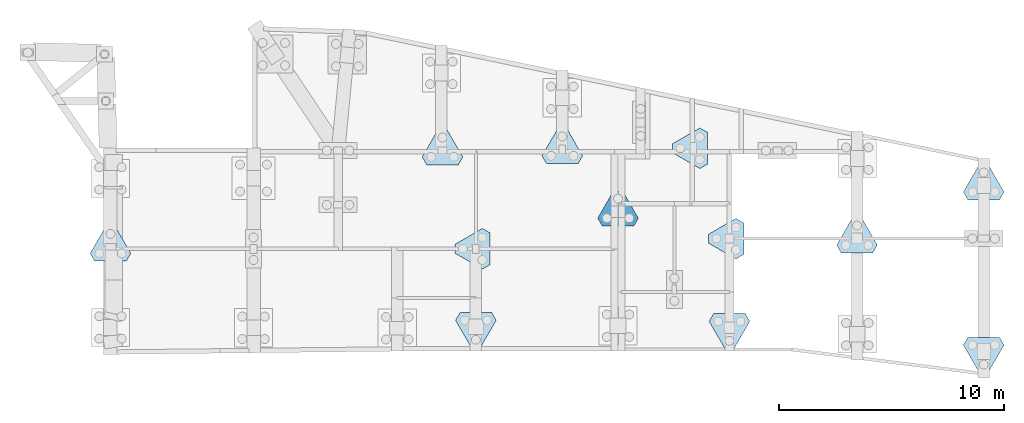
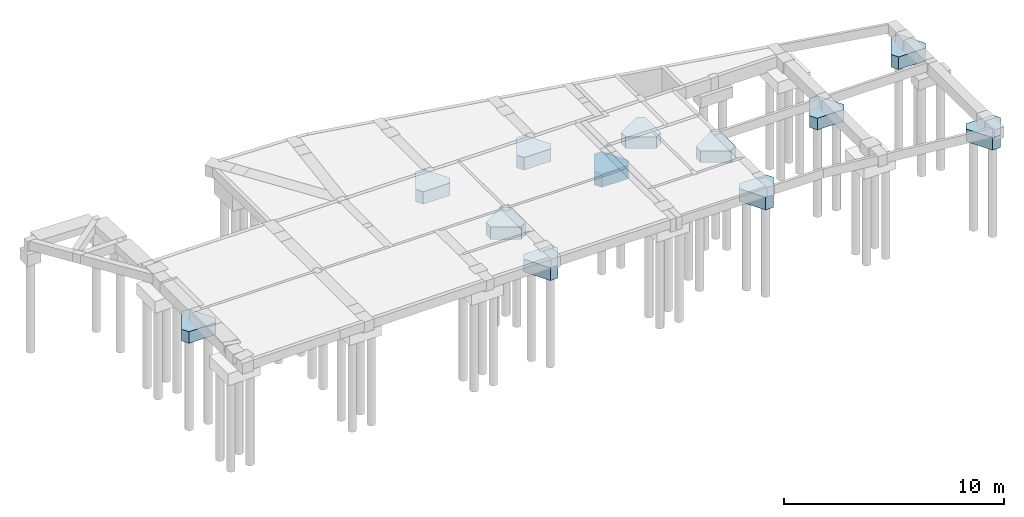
# One storey, part 5 of 5: 12 footings.
"""IFC4 building model written with IfcOpenShell, lengths in centimetres."""

from ifc_helpers import new_model, si_unit, derived_unit, frame, origin, origin_with_axes, place, context, project, spatial, faceted_brep, material, element, save


model = new_model("IFC4")

# Units and contexts
model_context = context("Model", 3, precision=1e-05, world=origin_with_axes(), identifier="Body")
ifc_project = project(units=[si_unit("LENGTHUNIT", "METRE", prefix="CENTI"), si_unit("VOLUMEUNIT", "CUBIC_METRE"), si_unit("AREAUNIT", "SQUARE_METRE"), si_unit("POWERUNIT", "WATT"), si_unit("LUMINOUSFLUXUNIT", "LUMEN"), si_unit("ELECTRICCURRENTUNIT", "AMPERE"), si_unit("PRESSUREUNIT", "PASCAL", prefix="KILO"), si_unit("MASSUNIT", "GRAM", prefix="KILO"), si_unit("PLANEANGLEUNIT", "RADIAN"), derived_unit("VOLUMETRICFLOWRATEUNIT", [(si_unit("LENGTHUNIT", "METRE"), 3), (si_unit("TIMEUNIT", "SECOND"), -1)])], contexts=[model_context])

# Site, building, storey
site_placement = place(None, origin_with_axes())
site = spatial("IfcSite", under=ifc_project, at=site_placement)
building_placement = place(site_placement, origin())
building = spatial("IfcBuilding", under=site, at=building_placement)
storey_placement = place(building_placement, origin_with_axes())
storey = spatial("IfcBuildingStorey", under=building, at=storey_placement, Name="PÁTIO", CompositionType="ELEMENT", Elevation=0.0)

# Footings
ifc_material = material(Name="Concreto")
footing_1_placement = place(storey_placement, frame((2019.6, -1250.1137567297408, -60.0), z_axis=(0.0, 0.0, 1.0), x_axis=(1.0, 0.0, 0.0)))
element("IfcFooting", 1, at=footing_1_placement, inside=storey, material=ifc_material, Name="P.A13", context=model_context, shape_type="SolidModel", body=[
    faceted_brep([(-20.207259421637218, -78.3012701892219, -70.0), (-90.41451884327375, 43.30127018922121, -70.0), (-70.20725942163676, 78.3012701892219, -70.0), (70.20725942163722, 78.3012701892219, -70.0), (90.41451884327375, 43.30127018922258, -70.0), (20.207259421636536, -78.3012701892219, -70.0), (20.207259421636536, -78.3012701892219, 0.0), (90.41451884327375, 43.30127018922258, 0.0), (70.20725942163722, 78.3012701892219, 0.0), (-70.20725942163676, 78.3012701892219, 0.0), (-90.41451884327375, 43.30127018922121, 0.0), (-20.207259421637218, -78.3012701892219, 0.0)], [[[0, 1, 2, 3, 4, 5]], [[6, 7, 8, 9, 10, 11]], [[6, 5, 7]], [[5, 4, 7]], [[7, 4, 8]], [[4, 3, 8]], [[8, 3, 9]], [[3, 2, 9]], [[9, 2, 10]], [[2, 1, 10]], [[10, 1, 11]], [[1, 0, 11]], [[11, 0, 6]], [[0, 5, 6]]]),
])
footing_2_placement = place(storey_placement, frame((3148.6, -1254.8037567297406, -60.0), z_axis=(0.0, 0.0, 1.0), x_axis=(1.0, 0.0, 0.0)))
element("IfcFooting", 2, at=footing_2_placement, inside=storey, material=ifc_material, Name="P.A15", context=model_context, shape_type="SolidModel", body=[
    faceted_brep([(-20.207259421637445, -78.3012701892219, -70.0), (-90.41451884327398, 43.30127018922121, -70.0), (-70.20725942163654, 78.3012701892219, -70.0), (70.20725942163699, 78.3012701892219, -70.0), (90.41451884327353, 43.30127018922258, -70.0), (20.207259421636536, -78.3012701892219, -70.0), (20.207259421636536, -78.3012701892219, 0.0), (90.41451884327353, 43.30127018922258, 0.0), (70.20725942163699, 78.3012701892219, 0.0), (-70.20725942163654, 78.3012701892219, 0.0), (-90.41451884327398, 43.30127018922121, 0.0), (-20.207259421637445, -78.3012701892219, 0.0)], [[[0, 1, 2, 3, 4, 5]], [[6, 7, 8, 9, 10, 11]], [[6, 5, 7]], [[5, 4, 7]], [[7, 4, 8]], [[4, 3, 8]], [[8, 3, 9]], [[3, 2, 9]], [[9, 2, 10]], [[2, 1, 10]], [[10, 1, 11]], [[1, 0, 11]], [[11, 0, 6]], [[0, 5, 6]]]),
])
footing_3_placement = place(storey_placement, frame((4280.6, -1360.6537567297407, -60.0), z_axis=(0.0, 0.0, 1.0), x_axis=(1.0, 0.0, 0.0)))
element("IfcFooting", 3, at=footing_3_placement, inside=storey, material=ifc_material, Name="P.A17", context=model_context, shape_type="SolidModel", body=[
    faceted_brep([(-20.20725942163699, -78.3012701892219, -70.0), (-90.41451884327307, 43.30127018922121, -70.0), (-70.20725942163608, 78.3012701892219, -70.0), (70.2072594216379, 78.3012701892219, -70.0), (90.41451884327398, 43.30127018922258, -70.0), (20.20725942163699, -78.3012701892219, -70.0), (20.20725942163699, -78.3012701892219, 0.0), (90.41451884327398, 43.30127018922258, 0.0), (70.2072594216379, 78.3012701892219, 0.0), (-70.20725942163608, 78.3012701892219, 0.0), (-90.41451884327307, 43.30127018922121, 0.0), (-20.20725942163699, -78.3012701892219, 0.0)], [[[0, 1, 2, 3, 4, 5]], [[6, 7, 8, 9, 10, 11]], [[6, 5, 7]], [[5, 4, 7]], [[7, 4, 8]], [[4, 3, 8]], [[8, 3, 9]], [[3, 2, 9]], [[9, 2, 10]], [[2, 1, 10]], [[10, 1, 11]], [[1, 0, 11]], [[11, 0, 6]], [[0, 5, 6]]]),
])
footing_4_placement = place(storey_placement, frame((4280.6, -592.1462432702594, -60.0), z_axis=(0.0, 0.0, 1.0), x_axis=(1.0, 0.0, 0.0)))
element("IfcFooting", 4, at=footing_4_placement, inside=storey, material=ifc_material, Name="P.A9", context=model_context, shape_type="SolidModel", body=[
    faceted_brep([(20.20725942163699, 78.30127018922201, -70.0), (90.41451884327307, -43.30127018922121, -70.0), (70.20725942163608, -78.3012701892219, -70.0), (-70.2072594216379, -78.3012701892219, -70.0), (-90.41451884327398, -43.30127018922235, -70.0), (-20.20725942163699, 78.30127018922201, -70.0), (-20.20725942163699, 78.30127018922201, 0.0), (-90.41451884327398, -43.30127018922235, 0.0), (-70.2072594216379, -78.3012701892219, 0.0), (70.20725942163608, -78.3012701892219, 0.0), (90.41451884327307, -43.30127018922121, 0.0), (20.20725942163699, 78.30127018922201, 0.0)], [[[0, 1, 2, 3, 4, 5]], [[6, 7, 8, 9, 10, 11]], [[6, 5, 7]], [[5, 4, 7]], [[7, 4, 8]], [[4, 3, 8]], [[8, 3, 9]], [[3, 2, 9]], [[9, 2, 10]], [[2, 1, 10]], [[10, 1, 11]], [[1, 0, 11]], [[11, 0, 6]], [[0, 5, 6]]]),
])
footing_5_placement = place(storey_placement, frame((1871.0, -436.4662432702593, -60.0), z_axis=(0.0, 0.0, 1.0), x_axis=(1.0, 0.0, 0.0)))
element("IfcFooting", 5, at=footing_5_placement, inside=storey, material=ifc_material, Name="P11", context=model_context, shape_type="SolidModel", body=[
    faceted_brep([(20.207259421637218, 78.30127018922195, -70.0), (90.41451884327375, -43.30127018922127, -70.0), (70.20725942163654, -78.30127018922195, -70.0), (-70.20725942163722, -78.30127018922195, -70.0), (-90.41451884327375, -43.301270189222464, -70.0), (-20.207259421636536, 78.30127018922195, -70.0), (-20.207259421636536, 78.30127018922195, 0.0), (-90.41451884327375, -43.301270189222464, 0.0), (-70.20725942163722, -78.30127018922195, 0.0), (70.20725942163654, -78.30127018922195, 0.0), (90.41451884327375, -43.30127018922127, 0.0), (20.207259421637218, 78.30127018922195, 0.0)], [[[0, 1, 2, 3, 4, 5]], [[6, 7, 8, 9, 10, 11]], [[6, 5, 7]], [[5, 4, 7]], [[7, 4, 8]], [[4, 3, 8]], [[8, 3, 9]], [[3, 2, 9]], [[9, 2, 10]], [[2, 1, 10]], [[10, 1, 11]], [[1, 0, 11]], [[11, 0, 6]], [[0, 5, 6]]]),
])
footing_6_placement = place(storey_placement, frame((2404.5, -431.4662432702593, -60.0), z_axis=(0.0, 0.0, 1.0), x_axis=(1.0, 0.0, 0.0)))
element("IfcFooting", 6, at=footing_6_placement, inside=storey, material=ifc_material, Name="P12", context=model_context, shape_type="SolidModel", body=[
    faceted_brep([(20.20725942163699, 78.30127018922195, -70.0), (90.41451884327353, -43.30127018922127, -70.0), (70.20725942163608, -78.30127018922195, -70.0), (-70.20725942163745, -78.30127018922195, -70.0), (-90.41451884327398, -43.301270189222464, -70.0), (-20.20725942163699, 78.30127018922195, -70.0), (-20.20725942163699, 78.30127018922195, 0.0), (-90.41451884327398, -43.301270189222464, 0.0), (-70.20725942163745, -78.30127018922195, 0.0), (70.20725942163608, -78.30127018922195, 0.0), (90.41451884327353, -43.30127018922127, 0.0), (20.20725942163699, 78.30127018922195, 0.0)], [[[0, 1, 2, 3, 4, 5]], [[6, 7, 8, 9, 10, 11]], [[6, 5, 7]], [[5, 4, 7]], [[7, 4, 8]], [[4, 3, 8]], [[8, 3, 9]], [[3, 2, 9]], [[9, 2, 10]], [[2, 1, 10]], [[10, 1, 11]], [[1, 0, 11]], [[11, 0, 6]], [[0, 5, 6]]]),
])
footing_7_placement = place(storey_placement, frame((2973.5662432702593, -440.9, -170.0), z_axis=(0.0, 0.0, 1.0), x_axis=(1.0, 0.0, 0.0)))
element("IfcFooting", 7, at=footing_7_placement, inside=storey, material=ifc_material, Name="P14", context=model_context, shape_type="SolidModel", body=[
    faceted_brep([(-78.30127018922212, 20.207259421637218, -65.0), (43.30127018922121, 90.41451884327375, -65.0), (78.30127018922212, 70.20725942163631, -65.0), (78.30127018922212, -70.20725942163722, -65.0), (43.30127018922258, -90.41451884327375, -65.0), (-78.30127018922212, -20.207259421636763, -65.0), (-78.30127018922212, -20.207259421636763, 0.0), (43.30127018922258, -90.41451884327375, 0.0), (78.30127018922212, -70.20725942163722, 0.0), (78.30127018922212, 70.20725942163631, 0.0), (43.30127018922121, 90.41451884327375, 0.0), (-78.30127018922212, 20.207259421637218, 0.0)], [[[0, 1, 2, 3, 4, 5]], [[6, 7, 8, 9, 10, 11]], [[6, 5, 7]], [[5, 4, 7]], [[7, 4, 8]], [[4, 3, 8]], [[8, 3, 9]], [[3, 2, 9]], [[9, 2, 10]], [[2, 1, 10]], [[10, 1, 11]], [[1, 0, 11]], [[11, 0, 6]], [[0, 5, 6]]]),
])
footing_8_placement = place(storey_placement, frame((2652.6, -708.6662432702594, -70.0), z_axis=(0.0, 0.0, 1.0), x_axis=(1.0, 0.0, 0.0)))
element("IfcFooting", 8, at=footing_8_placement, inside=storey, material=ifc_material, Name="P19", context=model_context, shape_type="SolidModel", body=[
    faceted_brep([(20.207259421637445, 78.30127018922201, -75.0), (90.41451884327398, -43.30127018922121, -75.0), (70.20725942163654, -78.3012701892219, -75.0), (-70.20725942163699, -78.3012701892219, -75.0), (-90.41451884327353, -43.30127018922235, -75.0), (-20.207259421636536, 78.30127018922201, -75.0), (-20.207259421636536, 78.30127018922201, 0.0), (-90.41451884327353, -43.30127018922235, 0.0), (-70.20725942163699, -78.3012701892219, 0.0), (70.20725942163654, -78.3012701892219, 0.0), (90.41451884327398, -43.30127018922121, 0.0), (20.207259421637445, 78.30127018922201, 0.0)], [[[0, 1, 2, 3, 4, 5]], [[6, 7, 8, 9, 10, 11]], [[6, 5, 7]], [[5, 4, 7]], [[7, 4, 8]], [[4, 3, 8]], [[8, 3, 9]], [[3, 2, 9]], [[9, 2, 10]], [[2, 1, 10]], [[10, 1, 11]], [[1, 0, 11]], [[11, 0, 6]], [[0, 5, 6]]]),
])
footing_9_placement = place(storey_placement, frame((392.75, -865.4662432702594, -60.0), z_axis=(0.0, 0.0, 1.0), x_axis=(1.0, 0.0, 0.0)))
element("IfcFooting", 9, at=footing_9_placement, inside=storey, material=ifc_material, Name="P21", context=model_context, shape_type="SolidModel", body=[
    faceted_brep([(20.207259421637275, 78.30127018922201, -65.0), (90.41451884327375, -43.30127018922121, -65.0), (70.20725942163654, -78.3012701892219, -65.0), (-70.20725942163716, -78.3012701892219, -65.0), (-90.41451884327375, -43.30127018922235, -65.0), (-20.207259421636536, 78.30127018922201, -65.0), (-20.207259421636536, 78.30127018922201, 0.0), (-90.41451884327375, -43.30127018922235, 0.0), (-70.20725942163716, -78.3012701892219, 0.0), (70.20725942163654, -78.3012701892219, 0.0), (90.41451884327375, -43.30127018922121, 0.0), (20.207259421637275, 78.30127018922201, 0.0)], [[[0, 1, 2, 3, 4, 5]], [[6, 7, 8, 9, 10, 11]], [[6, 5, 7]], [[5, 4, 7]], [[7, 4, 8]], [[4, 3, 8]], [[8, 3, 9]], [[3, 2, 9]], [[9, 2, 10]], [[2, 1, 10]], [[10, 1, 11]], [[1, 0, 11]], [[11, 0, 6]], [[0, 5, 6]]]),
])
footing_10_placement = place(storey_placement, frame((2005.1662432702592, -888.4, -60.0), z_axis=(0.0, 0.0, 1.0), x_axis=(1.0, 0.0, 0.0)))
element("IfcFooting", 10, at=footing_10_placement, inside=storey, material=ifc_material, Name="P23", context=model_context, shape_type="SolidModel", body=[
    faceted_brep([(-78.3012701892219, 20.207259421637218, -70.0), (43.30127018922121, 90.41451884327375, -70.0), (78.30127018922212, 70.20725942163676, -70.0), (78.30127018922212, -70.20725942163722, -70.0), (43.30127018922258, -90.41451884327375, -70.0), (-78.3012701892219, -20.207259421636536, -70.0), (-78.3012701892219, -20.207259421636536, 0.0), (43.30127018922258, -90.41451884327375, 0.0), (78.30127018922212, -70.20725942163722, 0.0), (78.30127018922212, 70.20725942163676, 0.0), (43.30127018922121, 90.41451884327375, 0.0), (-78.3012701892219, 20.207259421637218, 0.0)], [[[0, 1, 2, 3, 4, 5]], [[6, 7, 8, 9, 10, 11]], [[6, 5, 7]], [[5, 4, 7]], [[7, 4, 8]], [[4, 3, 8]], [[8, 3, 9]], [[3, 2, 9]], [[9, 2, 10]], [[2, 1, 10]], [[10, 1, 11]], [[1, 0, 11]], [[11, 0, 6]], [[0, 5, 6]]]),
])
footing_11_placement = place(storey_placement, frame((3134.1662432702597, -843.6, -60.0), z_axis=(0.0, 0.0, 1.0), x_axis=(1.0, 0.0, 0.0)))
element("IfcFooting", 11, at=footing_11_placement, inside=storey, material=ifc_material, Name="P24", context=model_context, shape_type="SolidModel", body=[
    faceted_brep([(-78.30127018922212, 20.207259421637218, -65.0), (43.30127018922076, 90.41451884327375, -65.0), (78.30127018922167, 70.20725942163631, -65.0), (78.30127018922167, -70.20725942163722, -65.0), (43.30127018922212, -90.41451884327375, -65.0), (-78.30127018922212, -20.207259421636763, -65.0), (-78.30127018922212, -20.207259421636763, 0.0), (43.30127018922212, -90.41451884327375, 0.0), (78.30127018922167, -70.20725942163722, 0.0), (78.30127018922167, 70.20725942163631, 0.0), (43.30127018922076, 90.41451884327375, 0.0), (-78.30127018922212, 20.207259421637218, 0.0)], [[[0, 1, 2, 3, 4, 5]], [[6, 7, 8, 9, 10, 11]], [[6, 5, 7]], [[5, 4, 7]], [[7, 4, 8]], [[4, 3, 8]], [[8, 3, 9]], [[3, 2, 9]], [[9, 2, 10]], [[2, 1, 10]], [[10, 1, 11]], [[1, 0, 11]], [[11, 0, 6]], [[0, 5, 6]]]),
])
footing_12_placement = place(storey_placement, frame((3716.6, -828.6662432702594, -60.0), z_axis=(0.0, 0.0, 1.0), x_axis=(1.0, 0.0, 0.0)))
element("IfcFooting", 12, at=footing_12_placement, inside=storey, material=ifc_material, Name="P25", context=model_context, shape_type="SolidModel", body=[
    faceted_brep([(20.207259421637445, 78.30127018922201, -65.0), (90.41451884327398, -43.30127018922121, -65.0), (70.20725942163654, -78.3012701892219, -65.0), (-70.20725942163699, -78.3012701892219, -65.0), (-90.41451884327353, -43.30127018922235, -65.0), (-20.207259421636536, 78.30127018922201, -65.0), (-20.207259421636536, 78.30127018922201, 0.0), (-90.41451884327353, -43.30127018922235, 0.0), (-70.20725942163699, -78.3012701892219, 0.0), (70.20725942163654, -78.3012701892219, 0.0), (90.41451884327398, -43.30127018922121, 0.0), (20.207259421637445, 78.30127018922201, 0.0)], [[[0, 1, 2, 3, 4, 5]], [[6, 7, 8, 9, 10, 11]], [[6, 5, 7]], [[5, 4, 7]], [[7, 4, 8]], [[4, 3, 8]], [[8, 3, 9]], [[3, 2, 9]], [[9, 2, 10]], [[2, 1, 10]], [[10, 1, 11]], [[1, 0, 11]], [[11, 0, 6]], [[0, 5, 6]]]),
])

save(model, "model.ifc")
